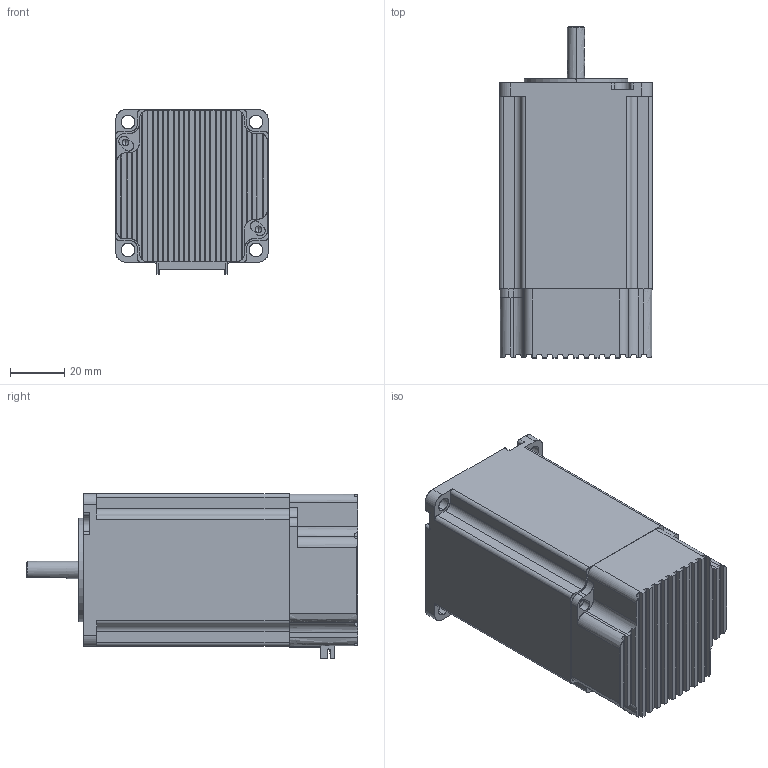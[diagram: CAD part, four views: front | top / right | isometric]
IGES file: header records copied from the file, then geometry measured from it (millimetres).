
Start section: SolidWorks IGES file using analytic representation for surfaces
Global section: file name: C:\Users\IEUser\Dropbox\Arcus\Project #23 DMX Drawings\DMX-K-SA-23\CSu files\DMX-K-SA-23-3.IGS; native system: SolidWorks 2008; preprocessor: SolidWorks 2008; author: IEUser; date: 140127.212857; units: millimetre
Bounding box: 56.4 x 122.4 x 60.84 mm (x, y, z)
Surface area: 42795.6 mm2 (no closed solid volume)
Topology: 0 solids, 0 shells, 1077 faces, 8106 edges, 8078 vertices
Faces by surface type: bspline 871, revolution 206
